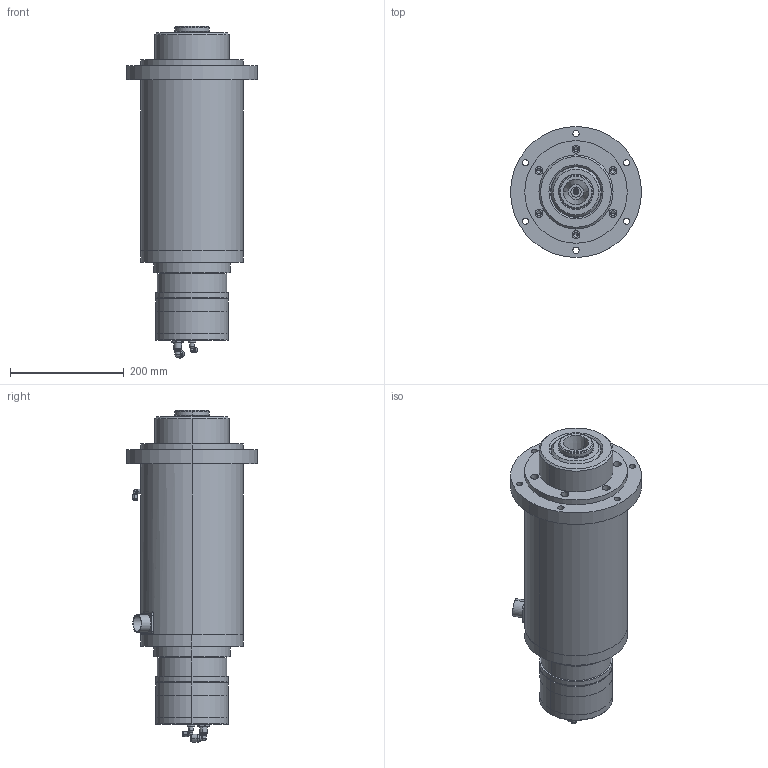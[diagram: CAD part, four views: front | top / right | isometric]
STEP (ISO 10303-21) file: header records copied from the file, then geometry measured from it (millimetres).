
FILE_DESCRIPTION (( 'STEP AP203' ), '1' );
FILE_NAME ('ARFM.6T BT40 SU SOÐUTMALI 7012 RULMANLI.STEP', '2020-12-29T07:06:09', ( '' ), ( '' ), 'SwSTEP 2.0', 'SolidWorks 2014', '' );
FILE_SCHEMA (( 'CONFIG_CONTROL_DESIGN' ));
Length unit declared in the file: millimetre
Products named in the file (15): PISTON KAPAGI; 6YL BT40 SU SOGUTMALI ÖN YAÐ KAPAK 7012 RULMANLI; 3139_04_00_02; PISTON GOVDESI BT30; 6YL BT40 SU SOGUTMALI YENÝ ÖN KAPAK 7012 RULMANLI; 6YL BT40 SU SOGUTMALI ANA GOVDE 7012 RULMANLI; PISTON GOVDE MONTAJI BT30; 6YL BT40 SU SOGUTMALI ROTOR MÝLÝ 7012 RULMANLI; 3139_08_00_02; PISTON GOVDE 2; ARFM.6T BT40 SU SOÐUTMALI 7012 RULMANLI; 6YL BT40 SU SOGUTMALI CEKET GOVDE 7012 RULMANLI; 6YL BT30 SUS SOGUTMALI ARKA KAPAK; 6YL BT40 SU SOGUTMALI TOZ KAPAÐI BT40; Soket
Assembly tree (16 placements, depth 3):
  ARFM.6T BT40 SU SOÐUTMALI 7012 RULMANLI
    6YL BT40 SU SOGUTMALI ANA GOVDE 7012 RULMANLI
    6YL BT40 SU SOGUTMALI CEKET GOVDE 7012 RULMANLI
    6YL BT40 SU SOGUTMALI ÖN YAÐ KAPAK 7012 RULMANLI
    6YL BT40 SU SOGUTMALI ROTOR MÝLÝ 7012 RULMANLI
    6YL BT40 SU SOGUTMALI TOZ KAPAÐI BT40
    PISTON GOVDE MONTAJI BT30
      PISTON GOVDESI BT30
      PISTON GOVDE 2
      PISTON KAPAGI
    6YL BT30 SUS SOGUTMALI ARKA KAPAK
    3139_04_00_02  x3
    3139_08_00_02
    Soket
    6YL BT40 SU SOGUTMALI YENÝ ÖN KAPAK 7012 RULMANLI
Bounding box: 230 x 230 x 582.75 mm (x, y, z)
Volume: 6186400.9 mm3; surface area: 1325876.3 mm2
Topology: 15 solids, 15 shells, 1070 faces, 2354 edges, 1458 vertices
Faces by surface type: cylinder 622, plane 235, cone 143, torus 62, sphere 8
Entity records: 28216 total; most frequent: CARTESIAN_POINT 5307, DIRECTION 4986, ORIENTED_EDGE 3948, AXIS2_PLACEMENT_3D 2158, EDGE_CURVE 1974, VERTEX_POINT 1264, EDGE_LOOP 1226, CIRCLE 1222
